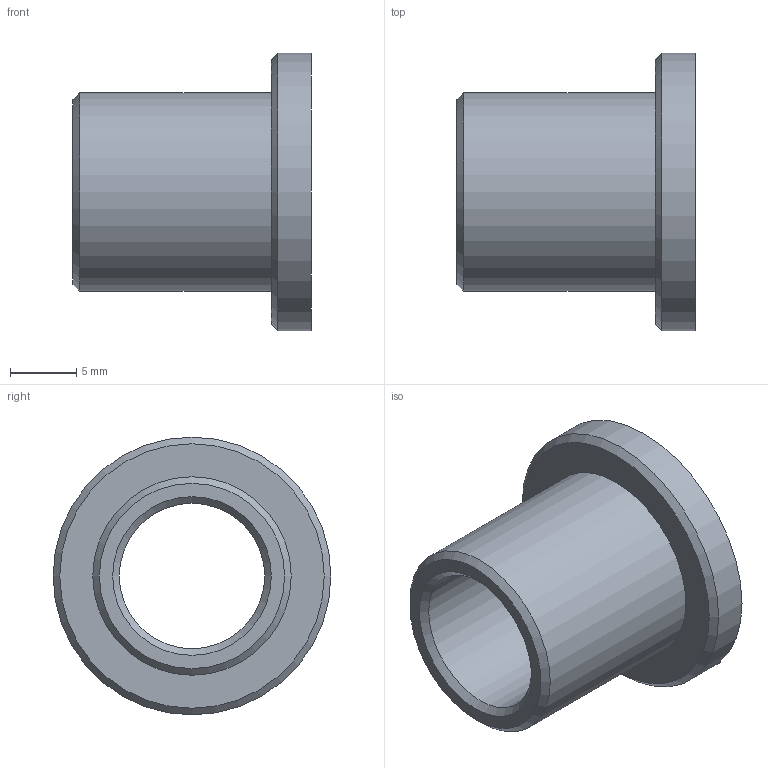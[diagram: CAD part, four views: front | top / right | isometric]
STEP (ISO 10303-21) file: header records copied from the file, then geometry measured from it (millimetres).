
FILE_DESCRIPTION(/* description */ (''),/* implementation_level */ '2;1');
FILE_NAME(/* name */ '',/* time_stamp */ '2026-08-27T17:04:14+09:00',/* author */ ('jhkim'),/* organization */ (''),/* preprocessor_version */ 'ST-DEVELOPER v20.1',/* originating_system */ 'Autodesk Inventor 2027',/* authorisation */ '');
FILE_SCHEMA (('AUTOMOTIVE_DESIGN { 1 0 10303 214 3 1 1 }'));
Length unit declared in the file: millimetre
Products named in the file (1): 부시
Bounding box: 18 x 21 x 21 mm (x, y, z)
Volume: 1960.9 mm3; surface area: 1985.9 mm2
Topology: 1 solids, 1 shells, 9 faces, 18 edges, 12 vertices
Faces by surface type: cone 3, plane 3, cylinder 3
Full cylindrical faces by diameter (mm): 11 x1, 15 x1, 21 x1
Entity records: 291 total; most frequent: DIRECTION 50, CARTESIAN_POINT 40, ORIENTED_EDGE 36, AXIS2_PLACEMENT_3D 22, EDGE_CURVE 18, EDGE_LOOP 12, CIRCLE 12, VERTEX_POINT 12
